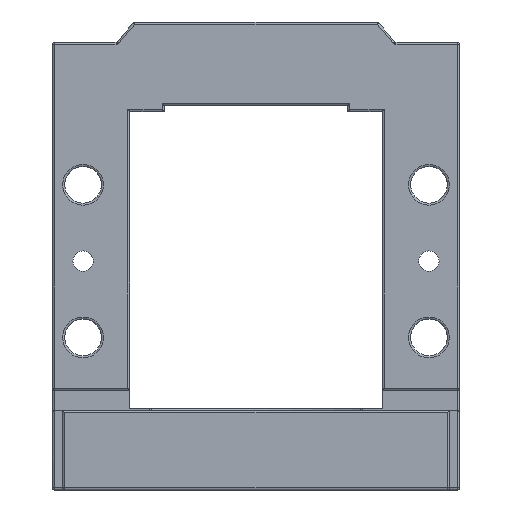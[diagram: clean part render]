
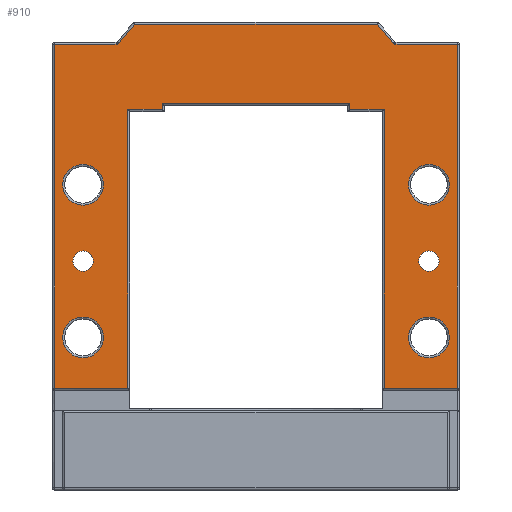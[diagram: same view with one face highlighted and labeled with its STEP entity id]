
A CAD part, front view. The second image highlights one B-rep face of the part: STEP entity #910.
In plain terms, the highlighted planar face has unit normal (0, -1, 0).
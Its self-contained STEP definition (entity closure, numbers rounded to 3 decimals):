
#278=PLANE('',#5977);
#495=FACE_BOUND('',#1720,.T.);
#496=FACE_BOUND('',#1721,.T.);
#497=FACE_BOUND('',#1722,.T.);
#498=FACE_BOUND('',#1723,.T.);
#499=FACE_BOUND('',#1724,.T.);
#500=FACE_BOUND('',#1725,.T.);
#501=FACE_BOUND('',#1726,.T.);
#910=ADVANCED_FACE('',(#495,#496,#497,#498,#499,#500,#501),#278,.F.);
#1720=EDGE_LOOP('',(#3105));
#1721=EDGE_LOOP('',(#3106));
#1722=EDGE_LOOP('',(#3107));
#1723=EDGE_LOOP('',(#3108));
#1724=EDGE_LOOP('',(#3109));
#1725=EDGE_LOOP('',(#3110));
#1726=EDGE_LOOP('',(#3111,#3112,#3113,#3114,#3115,#3116,#3117,#3118,#3119,
#3120,#3121,#3122,#3123,#3124,#3125,#3126,#3127,#3128));
#2031=LINE('',#8014,#2332);
#2149=LINE('',#9047,#2450);
#2150=LINE('',#9050,#2451);
#2151=LINE('',#9052,#2452);
#2152=LINE('',#9054,#2453);
#2153=LINE('',#9058,#2454);
#2154=LINE('',#9060,#2455);
#2155=LINE('',#9062,#2456);
#2156=LINE('',#9066,#2457);
#2157=LINE('',#9068,#2458);
#2158=LINE('',#9070,#2459);
#2159=LINE('',#9072,#2460);
#2160=LINE('',#9074,#2461);
#2161=LINE('',#9076,#2462);
#2162=LINE('',#9078,#2463);
#2163=LINE('',#9079,#2464);
#2332=VECTOR('',#6465,1.);
#2450=VECTOR('',#6847,1.);
#2451=VECTOR('',#6848,1.);
#2452=VECTOR('',#6849,1.);
#2453=VECTOR('',#6850,1.);
#2454=VECTOR('',#6853,1.);
#2455=VECTOR('',#6854,1.);
#2456=VECTOR('',#6855,1.);
#2457=VECTOR('',#6858,1.);
#2458=VECTOR('',#6859,1.);
#2459=VECTOR('',#6860,1.);
#2460=VECTOR('',#6861,1.);
#2461=VECTOR('',#6862,1.);
#2462=VECTOR('',#6863,1.);
#2463=VECTOR('',#6864,1.);
#2464=VECTOR('',#6865,1.);
#3105=ORIENTED_EDGE('',*,*,#5103,.T.);
#3106=ORIENTED_EDGE('',*,*,#5104,.T.);
#3107=ORIENTED_EDGE('',*,*,#4806,.T.);
#3108=ORIENTED_EDGE('',*,*,#4804,.T.);
#3109=ORIENTED_EDGE('',*,*,#4802,.T.);
#3110=ORIENTED_EDGE('',*,*,#4800,.T.);
#3111=ORIENTED_EDGE('',*,*,#5105,.T.);
#3112=ORIENTED_EDGE('',*,*,#5106,.T.);
#3113=ORIENTED_EDGE('',*,*,#5107,.T.);
#3114=ORIENTED_EDGE('',*,*,#5108,.T.);
#3115=ORIENTED_EDGE('',*,*,#5109,.F.);
#3116=ORIENTED_EDGE('',*,*,#5110,.T.);
#3117=ORIENTED_EDGE('',*,*,#5111,.T.);
#3118=ORIENTED_EDGE('',*,*,#5112,.T.);
#3119=ORIENTED_EDGE('',*,*,#5113,.F.);
#3120=ORIENTED_EDGE('',*,*,#5114,.T.);
#3121=ORIENTED_EDGE('',*,*,#5115,.T.);
#3122=ORIENTED_EDGE('',*,*,#5116,.T.);
#3123=ORIENTED_EDGE('',*,*,#5117,.T.);
#3124=ORIENTED_EDGE('',*,*,#5118,.T.);
#3125=ORIENTED_EDGE('',*,*,#5119,.T.);
#3126=ORIENTED_EDGE('',*,*,#5120,.T.);
#3127=ORIENTED_EDGE('',*,*,#4832,.T.);
#3128=ORIENTED_EDGE('',*,*,#5121,.T.);
#4270=VERTEX_POINT('',#7890);
#4272=VERTEX_POINT('',#7895);
#4274=VERTEX_POINT('',#7900);
#4276=VERTEX_POINT('',#7905);
#4298=VERTEX_POINT('',#8002);
#4302=VERTEX_POINT('',#8013);
#4550=VERTEX_POINT('',#9044);
#4551=VERTEX_POINT('',#9046);
#4552=VERTEX_POINT('',#9048);
#4553=VERTEX_POINT('',#9049);
#4554=VERTEX_POINT('',#9051);
#4555=VERTEX_POINT('',#9053);
#4556=VERTEX_POINT('',#9055);
#4557=VERTEX_POINT('',#9057);
#4558=VERTEX_POINT('',#9059);
#4559=VERTEX_POINT('',#9061);
#4560=VERTEX_POINT('',#9063);
#4561=VERTEX_POINT('',#9065);
#4562=VERTEX_POINT('',#9067);
#4563=VERTEX_POINT('',#9069);
#4564=VERTEX_POINT('',#9071);
#4565=VERTEX_POINT('',#9073);
#4566=VERTEX_POINT('',#9075);
#4567=VERTEX_POINT('',#9077);
#4800=EDGE_CURVE('',#4270,#4270,#5567,.T.);
#4802=EDGE_CURVE('',#4272,#4272,#5569,.T.);
#4804=EDGE_CURVE('',#4274,#4274,#5571,.T.);
#4806=EDGE_CURVE('',#4276,#4276,#5573,.T.);
#4832=EDGE_CURVE('',#4298,#4302,#2031,.T.);
#5103=EDGE_CURVE('',#4550,#4550,#5648,.T.);
#5104=EDGE_CURVE('',#4551,#4551,#5649,.T.);
#5105=EDGE_CURVE('',#4552,#4553,#2149,.T.);
#5106=EDGE_CURVE('',#4553,#4554,#2150,.T.);
#5107=EDGE_CURVE('',#4554,#4555,#2151,.T.);
#5108=EDGE_CURVE('',#4555,#4556,#2152,.T.);
#5109=EDGE_CURVE('',#4557,#4556,#5650,.T.);
#5110=EDGE_CURVE('',#4557,#4558,#2153,.T.);
#5111=EDGE_CURVE('',#4558,#4559,#2154,.T.);
#5112=EDGE_CURVE('',#4559,#4560,#2155,.T.);
#5113=EDGE_CURVE('',#4561,#4560,#5651,.T.);
#5114=EDGE_CURVE('',#4561,#4562,#2156,.T.);
#5115=EDGE_CURVE('',#4562,#4563,#2157,.T.);
#5116=EDGE_CURVE('',#4563,#4564,#2158,.T.);
#5117=EDGE_CURVE('',#4564,#4565,#2159,.T.);
#5118=EDGE_CURVE('',#4565,#4566,#2160,.T.);
#5119=EDGE_CURVE('',#4566,#4567,#2161,.T.);
#5120=EDGE_CURVE('',#4567,#4298,#2162,.T.);
#5121=EDGE_CURVE('',#4302,#4552,#2163,.T.);
#5567=CIRCLE('',#5810,10.);
#5569=CIRCLE('',#5813,10.);
#5571=CIRCLE('',#5816,10.);
#5573=CIRCLE('',#5819,10.);
#5648=CIRCLE('',#5973,5.);
#5649=CIRCLE('',#5974,5.);
#5650=CIRCLE('',#5975,2.);
#5651=CIRCLE('',#5976,2.);
#5810=AXIS2_PLACEMENT_3D('',#7889,#6394,#6395);
#5813=AXIS2_PLACEMENT_3D('',#7894,#6400,#6401);
#5816=AXIS2_PLACEMENT_3D('',#7899,#6406,#6407);
#5819=AXIS2_PLACEMENT_3D('',#7904,#6412,#6413);
#5973=AXIS2_PLACEMENT_3D('',#9043,#6843,#6844);
#5974=AXIS2_PLACEMENT_3D('',#9045,#6845,#6846);
#5975=AXIS2_PLACEMENT_3D('',#9056,#6851,#6852);
#5976=AXIS2_PLACEMENT_3D('',#9064,#6856,#6857);
#5977=AXIS2_PLACEMENT_3D('',#9080,#6866,#6867);
#6394=DIRECTION('',(0.,1.,0.));
#6395=DIRECTION('',(-1.,0.,0.));
#6400=DIRECTION('',(0.,1.,0.));
#6401=DIRECTION('',(-1.,0.,0.));
#6406=DIRECTION('',(0.,1.,0.));
#6407=DIRECTION('',(-1.,0.,0.));
#6412=DIRECTION('',(0.,1.,0.));
#6413=DIRECTION('',(-1.,0.,0.));
#6465=DIRECTION('',(0.,0.,-1.));
#6843=DIRECTION('',(0.,1.,0.));
#6844=DIRECTION('',(-1.,0.,0.));
#6845=DIRECTION('',(0.,1.,0.));
#6846=DIRECTION('',(-1.,0.,0.));
#6847=DIRECTION('',(0.,0.,-1.));
#6848=DIRECTION('',(1.,0.,0.));
#6849=DIRECTION('',(0.,0.,1.));
#6850=DIRECTION('',(-1.,0.,0.));
#6851=DIRECTION('',(0.,-1.,0.));
#6852=DIRECTION('',(-1.,0.,0.));
#6853=DIRECTION('',(-0.64,0.,0.768));
#6854=DIRECTION('',(-1.,0.,0.));
#6855=DIRECTION('',(-0.64,0.,-0.768));
#6856=DIRECTION('',(0.,-1.,0.));
#6857=DIRECTION('',(-1.,0.,0.));
#6858=DIRECTION('',(-1.,0.,0.));
#6859=DIRECTION('',(0.,0.,-1.));
#6860=DIRECTION('',(1.,0.,0.));
#6861=DIRECTION('',(0.,0.,1.));
#6862=DIRECTION('',(1.,0.,0.));
#6863=DIRECTION('',(0.,0.,1.));
#6864=DIRECTION('',(1.,0.,0.));
#6865=DIRECTION('',(1.,0.,0.));
#6866=DIRECTION('',(0.,1.,0.));
#6867=DIRECTION('',(1.,0.,0.));
#7889=CARTESIAN_POINT('',(85.,-51.,150.));
#7890=CARTESIAN_POINT('',(75.,-51.,150.));
#7894=CARTESIAN_POINT('',(-85.,-51.,75.));
#7895=CARTESIAN_POINT('',(-95.,-51.,75.));
#7899=CARTESIAN_POINT('',(85.,-51.,75.));
#7900=CARTESIAN_POINT('',(75.,-51.,75.));
#7904=CARTESIAN_POINT('',(-85.,-51.,150.));
#7905=CARTESIAN_POINT('',(-95.,-51.,150.));
#8002=CARTESIAN_POINT('',(46.087,-51.,190.));
#8013=CARTESIAN_POINT('',(46.087,-51.,187.));
#8014=CARTESIAN_POINT('',(46.087,-51.,220.));
#9043=CARTESIAN_POINT('',(85.,-51.,112.5));
#9044=CARTESIAN_POINT('',(80.,-51.,112.5));
#9045=CARTESIAN_POINT('',(-85.,-51.,112.5));
#9046=CARTESIAN_POINT('',(-90.,-51.,112.5));
#9047=CARTESIAN_POINT('',(63.,-51.,49.));
#9048=CARTESIAN_POINT('',(63.,-51.,187.));
#9049=CARTESIAN_POINT('',(63.,-51.,50.));
#9050=CARTESIAN_POINT('',(-100.,-51.,50.));
#9051=CARTESIAN_POINT('',(99.,-51.,50.));
#9052=CARTESIAN_POINT('',(99.,-51.,220.));
#9053=CARTESIAN_POINT('',(99.,-51.,219.));
#9054=CARTESIAN_POINT('',(-100.,-51.,219.));
#9055=CARTESIAN_POINT('',(68.803,-51.,219.));
#9056=CARTESIAN_POINT('',(68.803,-51.,221.));
#9057=CARTESIAN_POINT('',(67.267,-51.,219.72));
#9058=CARTESIAN_POINT('',(59.232,-51.,229.36));
#9059=CARTESIAN_POINT('',(59.532,-51.,229.));
#9060=CARTESIAN_POINT('',(-100.,-51.,229.));
#9061=CARTESIAN_POINT('',(-59.532,-51.,229.));
#9062=CARTESIAN_POINT('',(-67.566,-51.,219.36));
#9063=CARTESIAN_POINT('',(-67.267,-51.,219.72));
#9064=CARTESIAN_POINT('',(-68.803,-51.,221.));
#9065=CARTESIAN_POINT('',(-68.803,-51.,219.));
#9066=CARTESIAN_POINT('',(-100.,-51.,219.));
#9067=CARTESIAN_POINT('',(-99.,-51.,219.));
#9068=CARTESIAN_POINT('',(-99.,-51.,220.));
#9069=CARTESIAN_POINT('',(-99.,-51.,50.));
#9070=CARTESIAN_POINT('',(-100.,-51.,50.));
#9071=CARTESIAN_POINT('',(-63.,-51.,50.));
#9072=CARTESIAN_POINT('',(-63.,-51.,220.));
#9073=CARTESIAN_POINT('',(-63.,-51.,187.));
#9074=CARTESIAN_POINT('',(-43.451,-51.,187.));
#9075=CARTESIAN_POINT('',(-46.087,-51.,187.));
#9076=CARTESIAN_POINT('',(-46.087,-51.,220.));
#9077=CARTESIAN_POINT('',(-46.087,-51.,190.));
#9078=CARTESIAN_POINT('',(43.451,-51.,190.));
#9079=CARTESIAN_POINT('',(62.,-51.,187.));
#9080=CARTESIAN_POINT('',(-100.,-51.,220.));
